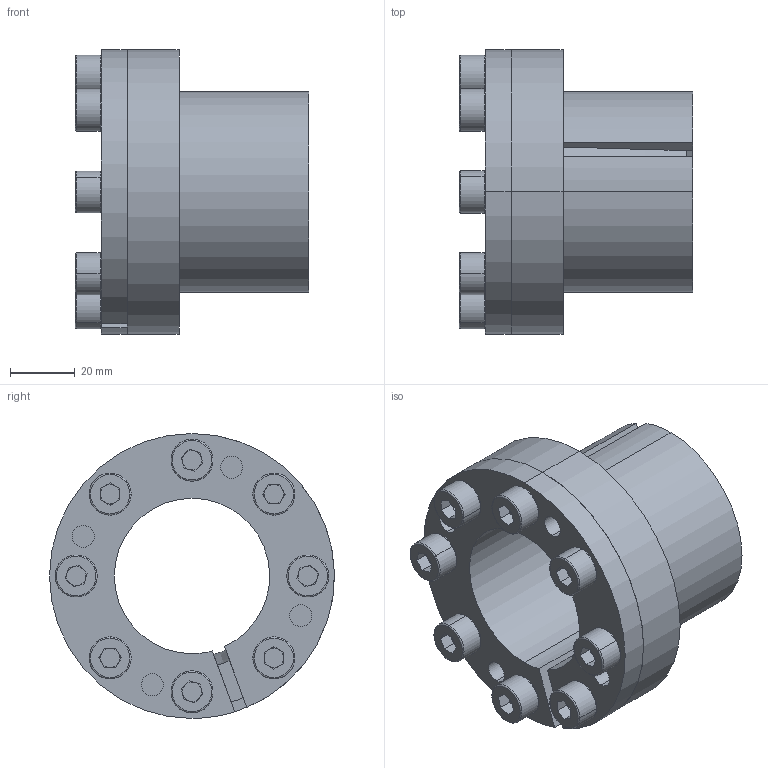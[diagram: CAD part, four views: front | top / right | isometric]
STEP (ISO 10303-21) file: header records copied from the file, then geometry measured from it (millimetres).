
FILE_DESCRIPTION (( 'STEP AP203' ), '1' );
FILE_NAME ('T-48-62.STEP', '2017-10-13T08:08:33', ( 'MYCOM' ), ( '' ), 'SwSTEP 2.0', 'SolidWorks 2015', '' );
FILE_SCHEMA (( 'CONFIG_CONTROL_DESIGN' ));
Length unit declared in the file: millimetre
Products named in the file (1): T-48-62
Bounding box: 72 x 88 x 88 mm (x, y, z)
Surface area: 69359.1 mm2 (no closed solid volume)
Topology: 0 solids, 19 shells, 229 faces, 598 edges, 382 vertices
Faces by surface type: plane 116, cylinder 75, torus 32, cone 6
Entity records: 7183 total; most frequent: DIRECTION 1358, CARTESIAN_POINT 1222, ORIENTED_EDGE 1086, EDGE_CURVE 598, AXIS2_PLACEMENT_3D 534, VERTEX_POINT 382, CIRCLE 304, LINE 290
